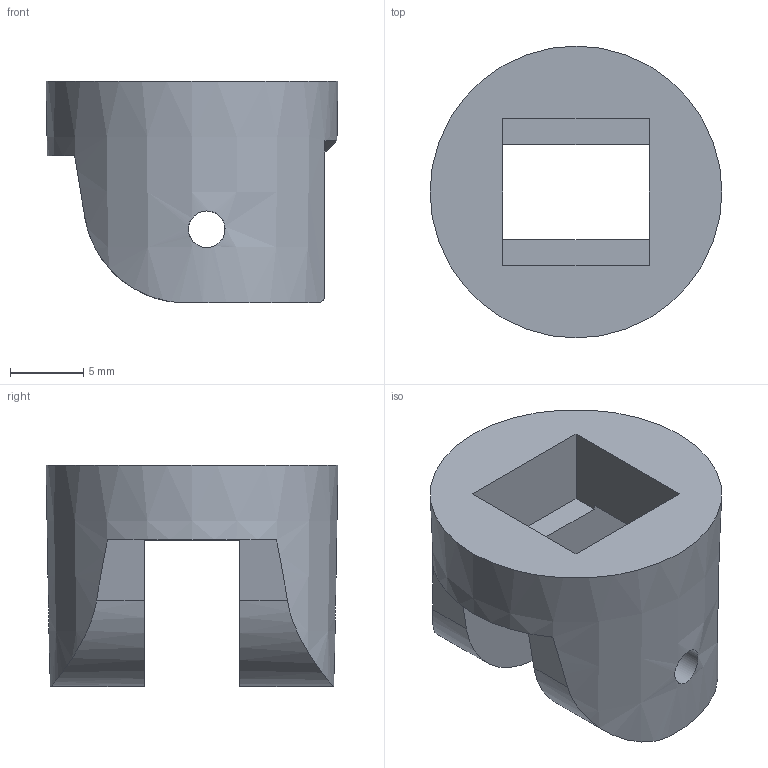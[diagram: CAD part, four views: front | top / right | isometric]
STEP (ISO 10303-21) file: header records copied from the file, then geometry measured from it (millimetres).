
FILE_DESCRIPTION(('HOOPS Exchange Step'),'2;1');
FILE_NAME('/Users/okancifci/Library/Containers/com.shapr3d.shapr/Data/tmp/export/temp_export','2025-02-12T18:12:26+03:00',('okancifci'),('Shapr3D Limited'),'HOOPS Exchange 2024.6','Shapr3D','Authorized');
FILE_SCHEMA( ('AP242_MANAGED_MODEL_BASED_3D_ENGINEERING_MIM_LF {1 0 10303 442 1 1 4 }') );
Length unit declared in the file: millimetre
Products named in the file (2): Thumb4.SLDPRT; root
Assembly tree (1 placements, depth 2):
  root
    Thumb4.SLDPRT
Bounding box: 19.9 x 19.9 x 15.08 mm (x, y, z)
Volume: 2584.8 mm3; surface area: 1820.2 mm2
Topology: 1 solids, 1 shells, 26 faces, 76 edges, 51 vertices
Faces by surface type: plane 17, cylinder 6, cone 3
Full cylindrical faces by diameter (mm): 2.5 x2
Entity records: 1379 total; most frequent: CARTESIAN_POINT 625, ORIENTED_EDGE 152, DIRECTION 138, EDGE_CURVE 76, VERTEX_POINT 51, VECTOR 50, LINE 50, AXIS2_PLACEMENT_3D 44
